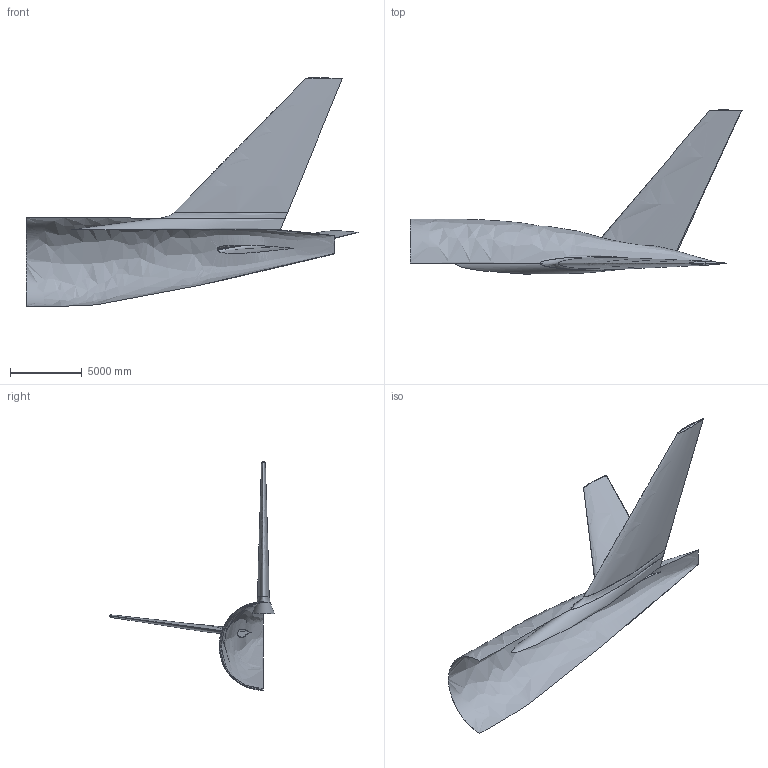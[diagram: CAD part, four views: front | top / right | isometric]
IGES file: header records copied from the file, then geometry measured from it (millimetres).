
Start section: START RECORD GO HERE.
Global section: file name: VTP_Shape_LRM.igs; native system: DASSAULT SYSTEMES CATIA V5 R21 - www.3ds.com; preprocessor: CATIA Version 5 Release 21 SP 4 ; author: achoffat; organization: IMFL; date: 20140513.102400; units: millimetre
Bounding box: 23187.23 x 11465.52 x 15968.06 mm (x, y, z)
Surface area: 361653150.9 mm2 (no closed solid volume)
Topology: 0 solids, 0 shells, 23 faces, 457 edges, 457 vertices
Faces by surface type: bspline 22, plane 1
